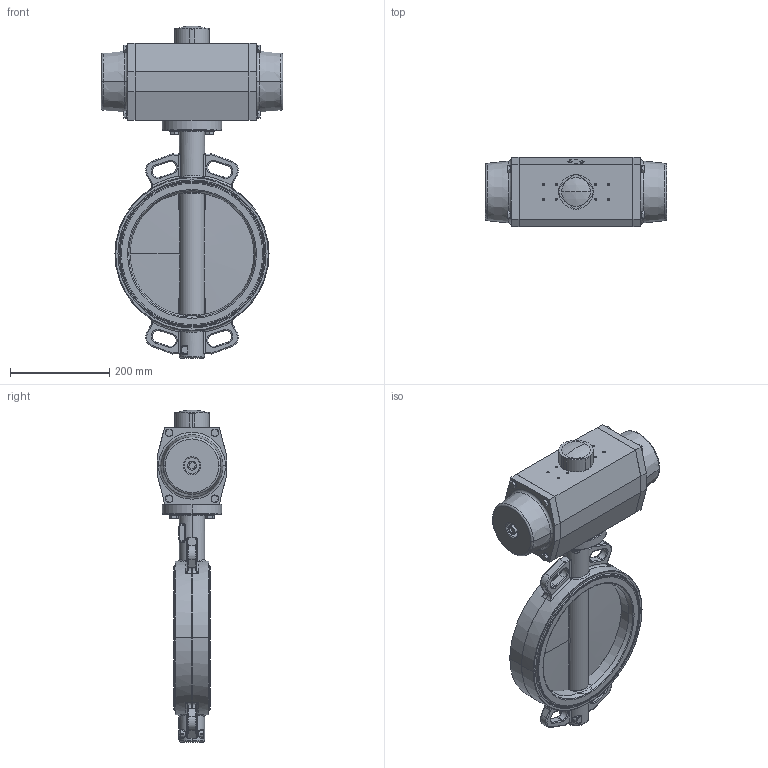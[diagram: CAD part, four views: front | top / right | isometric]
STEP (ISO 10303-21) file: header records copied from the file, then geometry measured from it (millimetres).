
FILE_DESCRIPTION (( 'STEP AP214' ), '1' );
FILE_NAME ('VTB200 DN250 + AP5D 2013.STEP', '2015-11-29T15:44:02', ( '' ), ( '' ), 'SwSTEP 2.0', 'SolidWorks 2013', '' );
FILE_SCHEMA (( 'AUTOMOTIVE_DESIGN' ));
Length unit declared in the file: millimetre
Products named in the file (8): hex screw gradeab_iso_ISO 4017 - M10 x 20-N; plain washer normal grade c_iso_Washer ISO 7091 - 10; AP5_Default<As Machined>; VTB200 Wafer DN250 BS 2013; Typeplaatje xxmm; Klep VTB200 DN250 2013; Huis met zitting DN250 2013; VTB200 DN250 + AP5D 2013
Assembly tree (13 placements, depth 3):
  VTB200 DN250 + AP5D 2013
    VTB200 Wafer DN250 BS 2013
      Huis met zitting DN250 2013
      Klep VTB200 DN250 2013
      Typeplaatje xxmm
    AP5_Default<As Machined>
    plain washer normal grade c_iso_Washer ISO 7091 - 10  x4
    hex screw gradeab_iso_ISO 4017 - M10 x 20-N  x4
Bounding box: 366 x 140 x 669.9 mm (x, y, z)
Volume: 9968452.2 mm3; surface area: 715084.2 mm2
Topology: 21 solids, 21 shells, 1126 faces, 2693 edges, 1636 vertices
Faces by surface type: plane 457, cylinder 261, bspline 195, torus 123, cone 88, sphere 2
Entity records: 50010 total; most frequent: CARTESIAN_POINT 24718, ORIENTED_EDGE 4850, DIRECTION 4377, EDGE_CURVE 2425, AXIS2_PLACEMENT_3D 1643, VERTEX_POINT 1510, EDGE_LOOP 1117, VECTOR 1091
